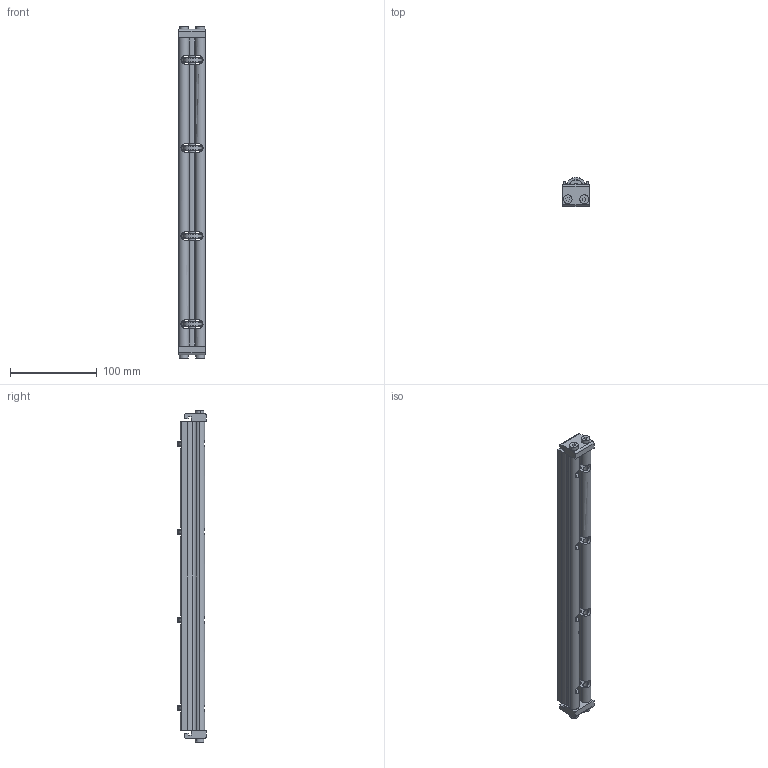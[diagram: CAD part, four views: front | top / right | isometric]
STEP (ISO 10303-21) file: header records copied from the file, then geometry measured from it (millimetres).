
FILE_DESCRIPTION((''),'2;1');
FILE_NAME('324914_ASM','2023-03-14T',('jenni.wallner'),(''),'PRO/ENGINEER BY PARAMETRIC TECHNOLOGY CORPORATION, 2012420','PRO/ENGINEER BY PARAMETRIC TECHNOLOGY CORPORATION, 2012420','');
FILE_SCHEMA(('CONFIG_CONTROL_DESIGN'));
Length unit declared in the file: inch
Products named in the file (7): 240826; X920693M; 240827_CAE; 2410WW_CAE_241014; 2436WW_243614; ASM0001_ASM; 324914_ASM
Assembly tree (13 placements, depth 3):
  324914_ASM
    ASM0001_ASM
      240826  x4
      X920693M  x4
      240827_CAE  x2
      2410WW_CAE_241014
      2436WW_243614
Bounding box: 30.88 x 33.34 x 383.01 mm (x, y, z)
Volume: 183277.4 mm3; surface area: 108792.6 mm2
Topology: 12 solids, 12 shells, 328 faces, 896 edges, 592 vertices
Faces by surface type: cylinder 146, plane 130, cone 36, torus 16
Entity records: 7967 total; most frequent: CARTESIAN_POINT 1857, DIRECTION 1304, ORIENTED_EDGE 1264, EDGE_CURVE 632, AXIS2_PLACEMENT_3D 500, VERTEX_POINT 420, VECTOR 304, LINE 304
